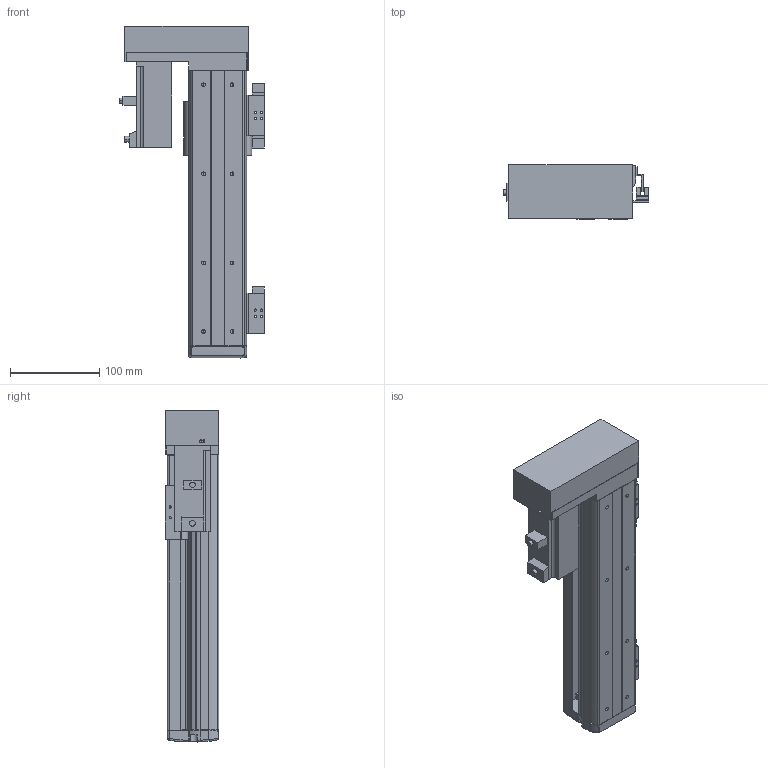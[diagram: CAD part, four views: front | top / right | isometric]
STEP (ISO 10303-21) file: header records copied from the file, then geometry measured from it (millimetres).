
FILE_DESCRIPTION (( 'STEP AP203' ), '1' );
FILE_NAME ('EXT65B-S200-2L.STEP', '2015-12-16T03:45:49', ( 'QQ' ), ( '' ), 'SwSTEP 2.0', 'SolidWorks 2013', '' );
FILE_SCHEMA (( 'CONFIG_CONTROL_DESIGN' ));
Length unit declared in the file: millimetre
Products named in the file (3): EXT65B-S200-2L; EXT65B-S50-2L
Assembly tree (2 placements, depth 2):
  EXT65B-S200-2L
    EXT65B-S200-2L
    EXT65B-S50-2L
Bounding box: 163 x 60.1 x 372.75 mm (x, y, z)
Volume: 818550.9 mm3; surface area: 342898.8 mm2
Topology: 19 solids, 20 shells, 889 faces, 2360 edges, 1560 vertices
Faces by surface type: cylinder 437, plane 414, bspline 22, cone 8, torus 8
Entity records: 30506 total; most frequent: CARTESIAN_POINT 7171, DIRECTION 4895, ORIENTED_EDGE 4716, EDGE_CURVE 2359, AXIS2_PLACEMENT_3D 1761, VERTEX_POINT 1560, LINE 1373, VECTOR 1373
